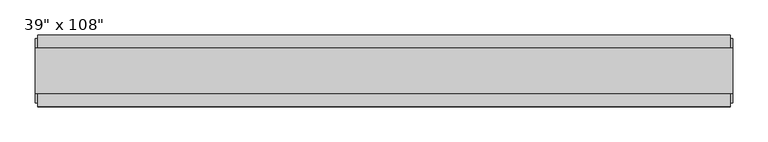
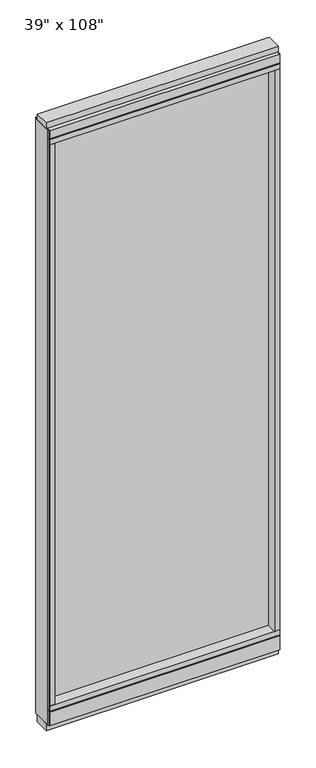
"""IFC4 building model written with IfcOpenShell, lengths in millimetres: furniture geometry."""

from ifc_helpers import new_model, si_unit, frame, origin, origin_with_axes, place, context, project, spatial, polyline, outline, extrude, source, transform, mapped, element, save


def furniture_92cb9c1f(model_context):
    return source(origin(), model_context, "Body", "SweptSolid", [
        extrude(outline(polyline([(409.1014771, -9.5977216), (-529.1745229, -9.5977216), (-529.1745229, 0.5622784), (409.1014771, 0.5622784), (409.1014771, -9.5977216)])), frame((0.0, 0.0, 120.523), z_axis=(0.0, 0.0, 1.0), x_axis=(1.0, 0.0, 0.0)), (0.0, 0.0, 1.0), 2533.777),
        extrude(outline(polyline([(-55.3177216, 93.345), (-50.3647216, 93.345), (-50.3647216, 98.298), (41.3292784, 98.298), (41.3292784, 93.345), (46.2822784, 93.345), (46.2822784, 31.75), (-55.3177216, 31.75), (-55.3177216, 93.345)])), frame((-551.3995229, 0.0, 0.0), z_axis=(1.0, 0.0, 0.0), x_axis=(0.0, 1.0, 0.0)), (0.0, 0.0, 1.0), 982.726),
        extrude(outline(polyline([(-551.3995229, -55.3177216), (-551.3995229, 46.2822784), (431.3264771, 46.2822784), (431.3264771, -55.3177216), (-551.3995229, -55.3177216)])), frame((0.0, 0.0, 98.298), z_axis=(0.0, 0.0, 1.0), x_axis=(1.0, 0.0, 0.0)), (0.0, 0.0, 1.0), 22.225),
        extrude(outline(polyline([(435.2634771, 27.9942784), (435.2634771, -37.0297216), (-555.3365229, -37.0297216), (-555.3365229, 27.9942784), (435.2634771, 27.9942784)])), origin_with_axes(), (0.0, 0.0, 1.0), 31.75),
        extrude(outline(polyline([(-555.3365229, -37.0297216), (-555.3365229, 27.9942784), (435.2634771, 27.9942784), (435.2634771, -37.0297216), (-555.3365229, -37.0297216)])), frame((0.0, 0.0, 2717.8), z_axis=(0.0, 0.0, 1.0), x_axis=(1.0, 0.0, 0.0)), (0.0, 0.0, 1.0), 25.4),
        extrude(outline(polyline([(-55.3177216, 2681.478), (-55.3177216, 2717.8), (46.2822784, 2717.8), (46.2822784, 2681.478), (41.3292784, 2681.478), (41.3292784, 2676.525), (-50.3647216, 2676.525), (-50.3647216, 2681.478), (-55.3177216, 2681.478)])), frame((-551.3995229, 0.0, 0.0), z_axis=(1.0, 0.0, 0.0), x_axis=(0.0, 1.0, 0.0)), (0.0, 0.0, 1.0), 982.726),
        extrude(outline(polyline([(431.3264771, 46.2822784), (431.3264771, -55.3177216), (-551.3995229, -55.3177216), (-551.3995229, 46.2822784), (431.3264771, 46.2822784)])), frame((0.0, 0.0, 2654.3), z_axis=(0.0, 0.0, 1.0), x_axis=(1.0, 0.0, 0.0)), (0.0, 0.0, 1.0), 22.225),
        extrude(outline(polyline([(409.1014771, -55.3177216), (409.1014771, 46.2822784), (431.3264771, 46.2822784), (431.3264771, -55.3177216), (409.1014771, -55.3177216)])), frame((0.0, 0.0, 120.523), z_axis=(0.0, 0.0, 1.0), x_axis=(1.0, 0.0, 0.0)), (0.0, 0.0, 1.0), 2533.777),
        extrude(outline(polyline([(-529.1745229, -55.3177216), (-551.3995229, -55.3177216), (-551.3995229, 46.2822784), (-529.1745229, 46.2822784), (-529.1745229, -55.3177216)])), frame((0.0, 0.0, 120.523), z_axis=(0.0, 0.0, 1.0), x_axis=(1.0, 0.0, 0.0)), (0.0, 0.0, 1.0), 2533.777),
        extrude(outline(polyline([(435.2634771, -50.3647216), (431.3264771, -50.3647216), (431.3264771, 41.3292784), (435.2634771, 41.3292784), (435.2634771, -50.3647216)])), frame((0.0, 0.0, 31.75), z_axis=(0.0, 0.0, 1.0), x_axis=(1.0, 0.0, 0.0)), (0.0, 0.0, 1.0), 2686.05),
        extrude(outline(polyline([(-555.3365229, -50.3647216), (-555.3365229, 41.3292784), (-551.3995229, 41.3292784), (-551.3995229, -50.3647216), (-555.3365229, -50.3647216)])), frame((0.0, 0.0, 31.75), z_axis=(0.0, 0.0, 1.0), x_axis=(1.0, 0.0, 0.0)), (0.0, 0.0, 1.0), 2686.05),
    ])


if __name__ == "__main__":
    model = new_model("IFC4")
    model_context = context("Model", 3, world=origin())
    ifc_project = project(units=[si_unit("LENGTHUNIT", "METRE", prefix="MILLI")], contexts=[model_context])
    site = spatial("IfcSite", under=ifc_project)
    building = spatial("IfcBuilding", under=site)
    placement = place(None, origin())
    furniture_shape = furniture_92cb9c1f(model_context)
    element("IfcFurniture", 1, ObjectType="Haworth_Enclose-Wall-Glass : 39\" x 108\"", at=placement, inside=building, context=model_context, shape_type="MappedRepresentation", body=[
        mapped(furniture_shape, transform((0.0, 0.0, 0.0), x_axis=(1.0, 0.0, 0.0), y_axis=(0.0, 1.0, 0.0), z_axis=(0.0, 0.0, 1.0))),
    ])
    save(model, "model.ifc")
